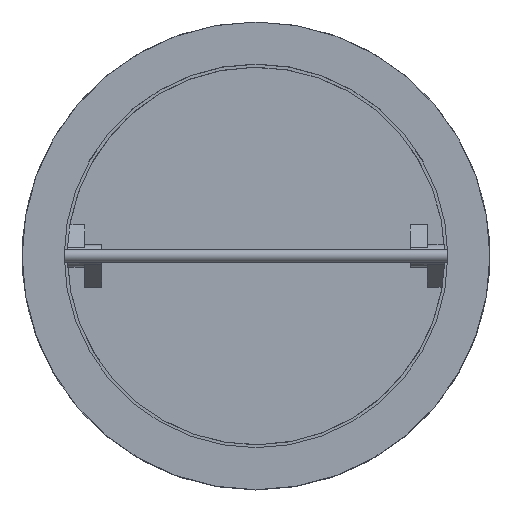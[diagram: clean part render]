
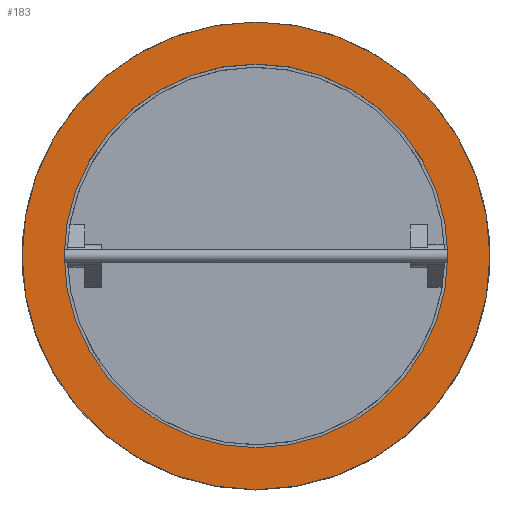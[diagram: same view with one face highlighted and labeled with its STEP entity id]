
A CAD part, top view. The second image highlights one B-rep face of the part: STEP entity #183.
In plain terms, the highlighted planar face has unit normal (0, 0, 1).
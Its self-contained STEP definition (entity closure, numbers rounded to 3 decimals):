
#183=ADVANCED_FACE('',(#838,#840),#842,.T.);
#838=FACE_BOUND('',#839,.T.);
#839=EDGE_LOOP('',(#1368));
#840=FACE_BOUND('',#841,.T.);
#841=EDGE_LOOP('',(#1369));
#842=PLANE('',#843);
#843=AXIS2_PLACEMENT_3D('',#844,#845,#846);
#844=CARTESIAN_POINT('',(0.,0.,114.));
#845=DIRECTION('',(0.,0.,1.));
#846=DIRECTION('',(0.,-1.,0.));
#1368=ORIENTED_EDGE('',*,*,#1729,.T.);
#1369=ORIENTED_EDGE('',*,*,#1736,.F.);
#1729=EDGE_CURVE('',#1955,#1955,#1956,.T.);
#1736=EDGE_CURVE('',#1969,#1969,#1970,.T.);
#1955=VERTEX_POINT('',#2376);
#1956=CIRCLE('',#2377,189.);
#1969=VERTEX_POINT('',#2409);
#1970=CIRCLE('',#2410,155.);
#2376=CARTESIAN_POINT('',(0.,-189.,114.));
#2377=AXIS2_PLACEMENT_3D('',#2378,#2379,#2380);
#2378=CARTESIAN_POINT('',(0.,0.,114.));
#2379=DIRECTION('',(0.,0.,1.));
#2380=DIRECTION('',(0.,-1.,0.));
#2409=CARTESIAN_POINT('',(0.,-155.,114.));
#2410=AXIS2_PLACEMENT_3D('',#2411,#2412,#2413);
#2411=CARTESIAN_POINT('',(0.,0.,114.));
#2412=DIRECTION('',(0.,0.,1.));
#2413=DIRECTION('',(0.,-1.,0.));
